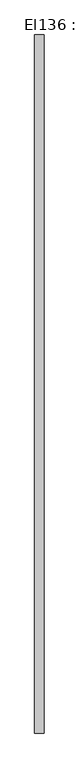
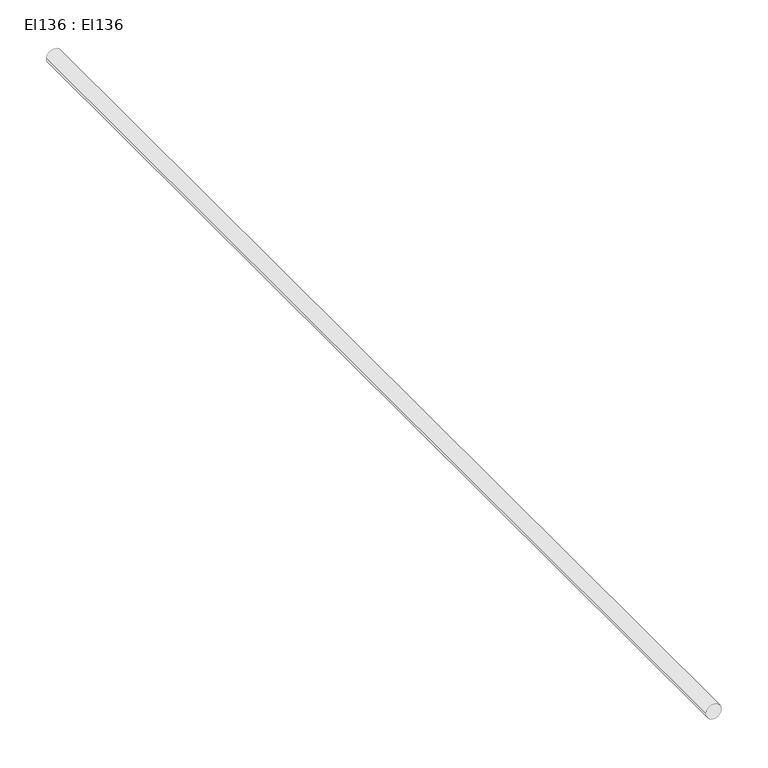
"""IFC4 building model written with IfcOpenShell, lengths in millimetres: cable carrier segment geometry, El136 : El136."""

from ifc_helpers import new_model, si_unit, point, frame, frame_2d, origin, place, context, project, spatial, circle_curve, trimmed, segment, composite_curve, outline, extrude, source, transform, mapped, element, save


def el136_el136_0b9fef87(model_context):
    return source(origin(), model_context, "Body", "SweptSolid", [
        extrude(outline(composite_curve([segment(trimmed(circle_curve(frame_2d((2950.0, 24980.0)), 9.5), [point((2950.0, 24970.5))], [point((2950.0, 24989.5))], False, "CARTESIAN"), True, "CONTINUOUS"), segment(trimmed(circle_curve(frame_2d((2950.0, 24980.0)), 9.5), [point((2950.0, 24989.5))], [point((2950.0, 24970.5))], False, "CARTESIAN"), True, "CONTINUOUS")], self_intersect=False)), frame((0.0, 10946.25, 0.0), z_axis=(0.0, 1.0, 0.0), x_axis=(0.0, 0.0, 1.0)), (0.0, 0.0, 1.0), 1416.7),
    ])


if __name__ == "__main__":
    model = new_model("IFC4")
    model_context = context("Model", 3, world=origin())
    ifc_project = project(units=[si_unit("LENGTHUNIT", "METRE", prefix="MILLI")], contexts=[model_context])
    site = spatial("IfcSite", under=ifc_project)
    building = spatial("IfcBuilding", under=site)
    placement = place(None, origin())
    el136_el136_shape = el136_el136_0b9fef87(model_context)
    element("IfcCableCarrierSegment", 1, ObjectType="El136 : El136", at=placement, inside=building, context=model_context, shape_type="MappedRepresentation", body=[
        mapped(el136_el136_shape, transform((0.0, 0.0, 0.0), x_axis=(1.0, 0.0, 0.0), y_axis=(0.0, 1.0, 0.0), z_axis=(0.0, 0.0, 1.0))),
    ])
    save(model, "model.ifc")
